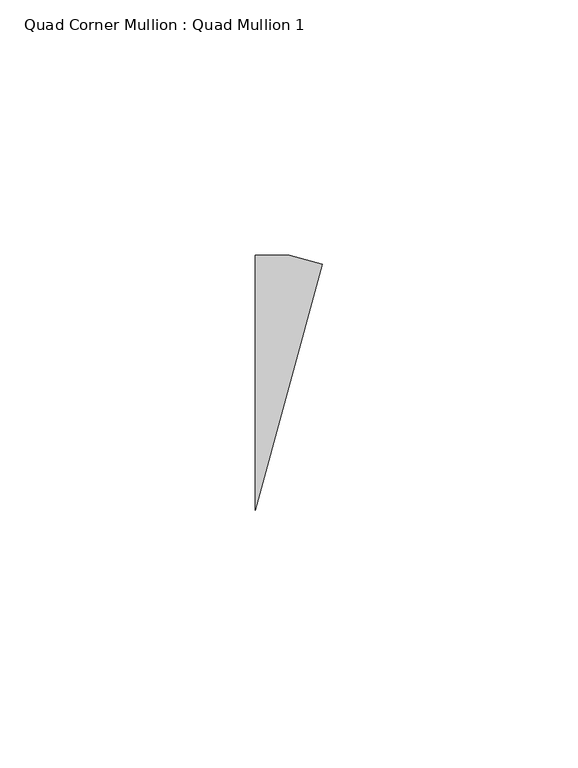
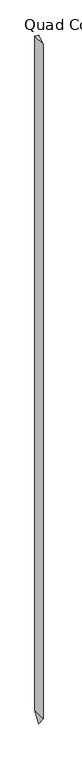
"""IFC4 building model written with IfcOpenShell, lengths in millimetres: member geometry, Quad Corner Mullion : Quad Mullion 1."""

from ifc_helpers import new_model, si_unit, origin, place, context, project, spatial, faceted_brep, source, transform, mapped, element, save


def quad_corner_mullion_quad_mullion_1_4a3ce0b4(model_context):
    return source(origin(), model_context, "Body", "Brep", [
        faceted_brep([(9.7884441, 23.245397, 0.0), (3.3409759, 25.0, 0.0), (-3.3409759, 25.0, 0.0), (-3.3409759, -25.0, 0.0), (9.7884441, 23.245397, -2533.1298097), (3.3409759, 25.0, -2506.7917039), (-3.3409759, 25.0, -2479.495726), (-3.3409759, -25.0, -2479.495726)], [[[0, 1, 2, 3]], [[1, 0, 4, 5]], [[2, 1, 5, 6]], [[3, 2, 6, 7]], [[0, 3, 7, 4]], [[4, 7, 6, 5]]]),
    ])


if __name__ == "__main__":
    model = new_model("IFC4")
    model_context = context("Model", 3, world=origin())
    ifc_project = project(units=[si_unit("LENGTHUNIT", "METRE", prefix="MILLI")], contexts=[model_context])
    site = spatial("IfcSite", under=ifc_project)
    building = spatial("IfcBuilding", under=site)
    placement = place(None, origin())
    quad_corner_mullion_quad_mullion_1_shape = quad_corner_mullion_quad_mullion_1_4a3ce0b4(model_context)
    element("IfcMember", 1, ObjectType="Quad Corner Mullion : Quad Mullion 1", at=placement, inside=building, context=model_context, shape_type="MappedRepresentation", body=[
        mapped(quad_corner_mullion_quad_mullion_1_shape, transform((0.0, 0.0, 0.0), x_axis=(1.0, 0.0, 0.0), y_axis=(0.0, 1.0, 0.0), z_axis=(0.0, 0.0, 1.0))),
    ])
    save(model, "model.ifc")
